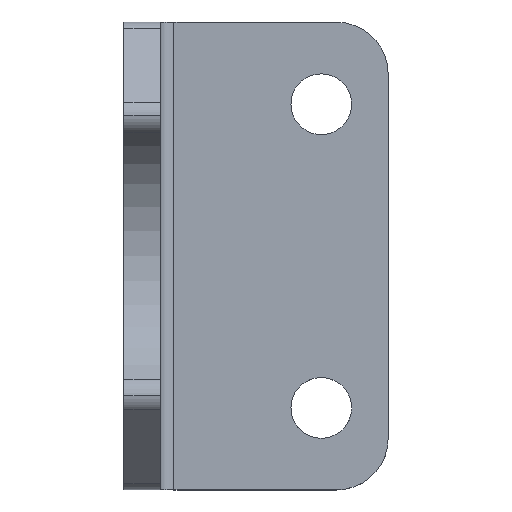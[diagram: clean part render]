
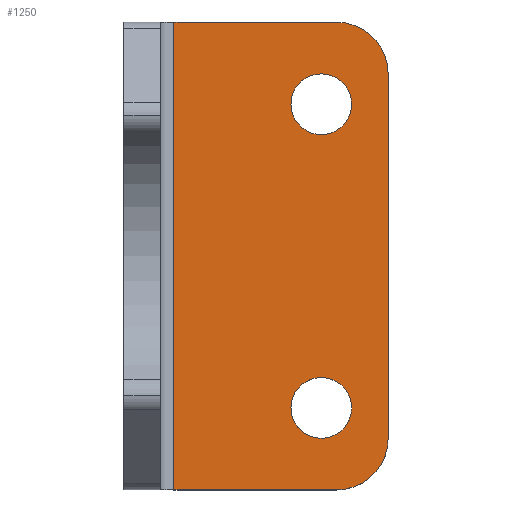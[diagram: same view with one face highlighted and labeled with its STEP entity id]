
A CAD part, top view. The second image highlights one B-rep face of the part: STEP entity #1250.
In plain terms, the highlighted planar face has unit normal (0, 0, 1).
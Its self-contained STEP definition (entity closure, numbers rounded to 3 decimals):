
#763=CARTESIAN_POINT('Vertex',(8.25,38.5,0.)) ;
#789=CARTESIAN_POINT('Vertex',(8.25,-38.5,0.)) ;
#844=CARTESIAN_POINT('Vertex',(27.5,25.,0.)) ;
#847=CARTESIAN_POINT('Axis2P3D Location',(32.5,25.,0.)) ;
#851=CARTESIAN_POINT('Vertex',(32.5,20.,0.)) ;
#871=CARTESIAN_POINT('Axis2P3D Location',(32.5,25.,0.)) ;
#875=CARTESIAN_POINT('Vertex',(32.5,30.,0.)) ;
#908=CARTESIAN_POINT('Vertex',(37.5,25.,0.)) ;
#911=CARTESIAN_POINT('Axis2P3D Location',(32.5,25.,0.)) ;
#923=CARTESIAN_POINT('Axis2P3D Location',(32.5,25.,0.)) ;
#945=CARTESIAN_POINT('Line Origine',(8.25,0.,0.)) ;
#975=CARTESIAN_POINT('Vertex',(43.5,30.,0.)) ;
#978=CARTESIAN_POINT('Line Origine',(43.5,0.,0.)) ;
#982=CARTESIAN_POINT('Vertex',(43.5,-30.,0.)) ;
#1002=CARTESIAN_POINT('Line Origine',(21.625,38.5,0.)) ;
#1006=CARTESIAN_POINT('Vertex',(35.,38.5,0.)) ;
#1044=CARTESIAN_POINT('Vertex',(35.,-38.5,0.)) ;
#1047=CARTESIAN_POINT('Line Origine',(21.625,-38.5,0.)) ;
#1069=CARTESIAN_POINT('Axis2P3D Location',(35.,30.,0.)) ;
#1091=CARTESIAN_POINT('Axis2P3D Location',(35.,-30.,0.)) ;
#1108=CARTESIAN_POINT('Axis2P3D Location',(32.5,-25.,0.)) ;
#1112=CARTESIAN_POINT('Vertex',(32.5,-20.,0.)) ;
#1114=CARTESIAN_POINT('Vertex',(27.5,-25.,0.)) ;
#1192=CARTESIAN_POINT('Vertex',(37.5,-25.,0.)) ;
#1195=CARTESIAN_POINT('Axis2P3D Location',(32.5,-25.,0.)) ;
#1207=CARTESIAN_POINT('Axis2P3D Location',(0.,0.,0.)) ;
#1221=CARTESIAN_POINT('Control Point',(32.5,-30.,0.)) ;
#1222=CARTESIAN_POINT('Control Point',(34.071,-30.,0.)) ;
#1223=CARTESIAN_POINT('Control Point',(35.643,-29.385,0.)) ;
#1224=CARTESIAN_POINT('Control Point',(36.885,-28.143,0.)) ;
#1225=CARTESIAN_POINT('Control Point',(37.5,-26.571,0.)) ;
#1226=CARTESIAN_POINT('Control Point',(37.5,-25.,0.)) ;
#1227=CARTESIAN_POINT('Vertex',(32.5,-30.,0.)) ;
#1231=CARTESIAN_POINT('Control Point',(27.5,-25.,0.)) ;
#1232=CARTESIAN_POINT('Control Point',(27.5,-26.571,0.)) ;
#1233=CARTESIAN_POINT('Control Point',(28.115,-28.143,0.)) ;
#1234=CARTESIAN_POINT('Control Point',(29.357,-29.385,0.)) ;
#1235=CARTESIAN_POINT('Control Point',(30.929,-30.,0.)) ;
#1236=CARTESIAN_POINT('Control Point',(32.5,-30.,0.)) ;
#848=DIRECTION('Axis2P3D Direction',(0.,0.,1.)) ;
#872=DIRECTION('Axis2P3D Direction',(0.,0.,1.)) ;
#912=DIRECTION('Axis2P3D Direction',(0.,0.,1.)) ;
#924=DIRECTION('Axis2P3D Direction',(0.,0.,1.)) ;
#946=DIRECTION('Vector Direction',(0.,1.,0.)) ;
#979=DIRECTION('Vector Direction',(0.,1.,0.)) ;
#1003=DIRECTION('Vector Direction',(-1.,0.,0.)) ;
#1048=DIRECTION('Vector Direction',(-1.,0.,0.)) ;
#1070=DIRECTION('Axis2P3D Direction',(0.,0.,1.)) ;
#1092=DIRECTION('Axis2P3D Direction',(0.,0.,1.)) ;
#1109=DIRECTION('Axis2P3D Direction',(0.,0.,1.)) ;
#1196=DIRECTION('Axis2P3D Direction',(0.,0.,1.)) ;
#1208=DIRECTION('Axis2P3D Direction',(0.,0.,1.)) ;
#1209=DIRECTION('Axis2P3D XDirection',(0.,-1.,0.)) ;
#849=AXIS2_PLACEMENT_3D('Circle Axis2P3D',#847,#848,$) ;
#873=AXIS2_PLACEMENT_3D('Circle Axis2P3D',#871,#872,$) ;
#913=AXIS2_PLACEMENT_3D('Circle Axis2P3D',#911,#912,$) ;
#925=AXIS2_PLACEMENT_3D('Circle Axis2P3D',#923,#924,$) ;
#1071=AXIS2_PLACEMENT_3D('Circle Axis2P3D',#1069,#1070,$) ;
#1093=AXIS2_PLACEMENT_3D('Circle Axis2P3D',#1091,#1092,$) ;
#1110=AXIS2_PLACEMENT_3D('Circle Axis2P3D',#1108,#1109,$) ;
#1197=AXIS2_PLACEMENT_3D('Circle Axis2P3D',#1195,#1196,$) ;
#1210=AXIS2_PLACEMENT_3D('Plane Axis2P3D',#1207,#1208,#1209) ;
#1213=ORIENTED_EDGE('',*,*,#949,.F.) ;
#1214=ORIENTED_EDGE('',*,*,#1051,.F.) ;
#1215=ORIENTED_EDGE('',*,*,#1095,.T.) ;
#1216=ORIENTED_EDGE('',*,*,#984,.T.) ;
#1217=ORIENTED_EDGE('',*,*,#1073,.T.) ;
#1218=ORIENTED_EDGE('',*,*,#1008,.T.) ;
#1239=ORIENTED_EDGE('',*,*,#1229,.F.) ;
#1240=ORIENTED_EDGE('',*,*,#1237,.F.) ;
#1241=ORIENTED_EDGE('',*,*,#1116,.F.) ;
#1242=ORIENTED_EDGE('',*,*,#1199,.F.) ;
#1245=ORIENTED_EDGE('',*,*,#927,.F.) ;
#1246=ORIENTED_EDGE('',*,*,#853,.F.) ;
#1247=ORIENTED_EDGE('',*,*,#877,.F.) ;
#1248=ORIENTED_EDGE('',*,*,#915,.F.) ;
#1243=FACE_BOUND('',#1238,.T.) ;
#1249=FACE_BOUND('',#1244,.T.) ;
#947=VECTOR('Line Direction',#946,1.) ;
#980=VECTOR('Line Direction',#979,1.) ;
#1004=VECTOR('Line Direction',#1003,1.) ;
#1049=VECTOR('Line Direction',#1048,1.) ;
#1250=ADVANCED_FACE('PartBody',(#1219,#1243,#1249),#1211,.T.) ;
#1220=B_SPLINE_CURVE_WITH_KNOTS('',5,(#1221,#1222,#1223,#1224,#1225,#1226),.UNSPECIFIED.,.F.,.U.,(6,6),(31.416,39.27),.UNSPECIFIED.) ;
#1230=B_SPLINE_CURVE_WITH_KNOTS('',5,(#1231,#1232,#1233,#1234,#1235,#1236),.UNSPECIFIED.,.F.,.U.,(6,6),(23.562,31.416),.UNSPECIFIED.) ;
#850=CIRCLE('generated circle',#849,5.) ;
#874=CIRCLE('generated circle',#873,5.) ;
#914=CIRCLE('generated circle',#913,5.) ;
#926=CIRCLE('generated circle',#925,5.) ;
#1072=CIRCLE('generated circle',#1071,8.5) ;
#1094=CIRCLE('generated circle',#1093,8.5) ;
#1111=CIRCLE('generated circle',#1110,5.) ;
#1198=CIRCLE('generated circle',#1197,5.) ;
#853=EDGE_CURVE('',#845,#852,#850,.T.) ;
#877=EDGE_CURVE('',#876,#845,#874,.T.) ;
#915=EDGE_CURVE('',#909,#876,#914,.T.) ;
#927=EDGE_CURVE('',#852,#909,#926,.T.) ;
#949=EDGE_CURVE('',#790,#764,#948,.T.) ;
#984=EDGE_CURVE('',#983,#976,#981,.T.) ;
#1008=EDGE_CURVE('',#1007,#764,#1005,.T.) ;
#1051=EDGE_CURVE('',#1045,#790,#1050,.T.) ;
#1073=EDGE_CURVE('',#976,#1007,#1072,.T.) ;
#1095=EDGE_CURVE('',#1045,#983,#1094,.T.) ;
#1116=EDGE_CURVE('',#1113,#1115,#1111,.T.) ;
#1199=EDGE_CURVE('',#1193,#1113,#1198,.T.) ;
#1229=EDGE_CURVE('',#1228,#1193,#1220,.T.) ;
#1237=EDGE_CURVE('',#1115,#1228,#1230,.T.) ;
#1212=EDGE_LOOP('',(#1213,#1214,#1215,#1216,#1217,#1218)) ;
#1238=EDGE_LOOP('',(#1239,#1240,#1241,#1242)) ;
#1244=EDGE_LOOP('',(#1245,#1246,#1247,#1248)) ;
#1219=FACE_OUTER_BOUND('',#1212,.T.) ;
#948=LINE('Line',#945,#947) ;
#981=LINE('Line',#978,#980) ;
#1005=LINE('Line',#1002,#1004) ;
#1050=LINE('Line',#1047,#1049) ;
#1211=PLANE('',#1210) ;
#764=VERTEX_POINT('',#763) ;
#790=VERTEX_POINT('',#789) ;
#845=VERTEX_POINT('',#844) ;
#852=VERTEX_POINT('',#851) ;
#876=VERTEX_POINT('',#875) ;
#909=VERTEX_POINT('',#908) ;
#976=VERTEX_POINT('',#975) ;
#983=VERTEX_POINT('',#982) ;
#1007=VERTEX_POINT('',#1006) ;
#1045=VERTEX_POINT('',#1044) ;
#1113=VERTEX_POINT('',#1112) ;
#1115=VERTEX_POINT('',#1114) ;
#1193=VERTEX_POINT('',#1192) ;
#1228=VERTEX_POINT('',#1227) ;
